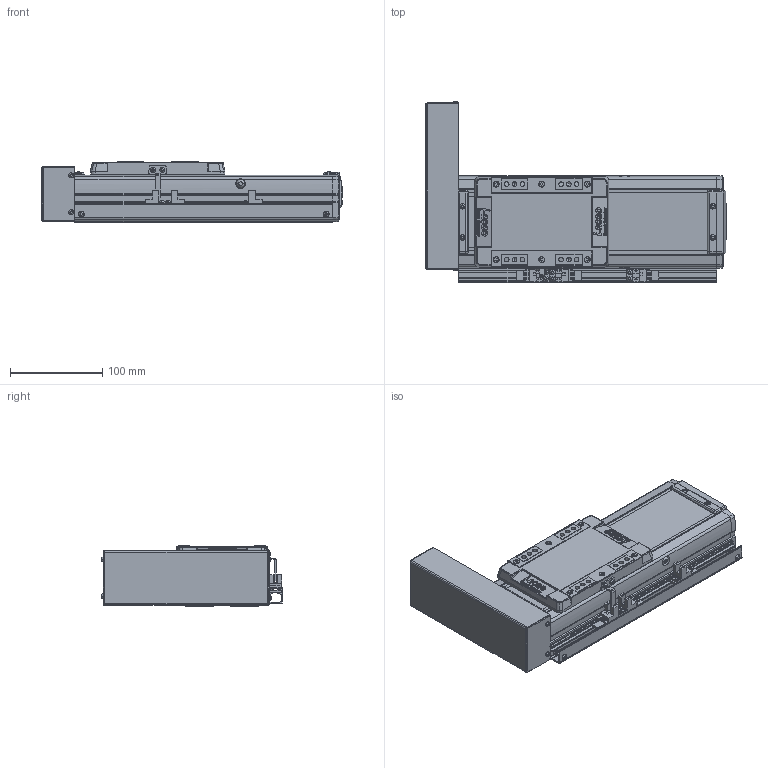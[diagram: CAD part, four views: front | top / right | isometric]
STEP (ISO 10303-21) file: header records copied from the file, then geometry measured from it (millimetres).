
FILE_DESCRIPTION(('STEP AP214'),'1');
FILE_NAME('Z:/Web/3D/SAN100/SAN100 양산용 (STEP)/SAN100ㅁㅁ-100PL+3SR.stp','2013-04-24T06:13:48',(' '),(' '),'Spatial InterOp 3D',' ',' ');
FILE_SCHEMA(('automotive_design'));
Length unit declared in the file: millimetre
Products named in the file (47): SUS COVER; SFX-SAN100; RRCV-SAN100; 스크루 : Round - M4.0 x 10.0; M3.0 x 6.0; 스크루 : Round - M3.0 x 6.0; FRBL-SAN100; SLBL-SAN100; SLCV-SAN100; 스크루 : Countersunk - M3.0 x 6.0; BASE; 스크루 : Round - M5.0 x 6.0; EE-SX674; SBK-SX674-352; SRL-16x17-380L; SGD-SAN100; BTCV-SAN65; BHCS M3 X 6L
Bounding box: 326.5 x 197.06 x 66 mm (x, y, z)
Volume: 1336112.7 mm3; surface area: 343197.5 mm2
Topology: 47 solids, 48 shells, 2271 faces, 5914 edges, 3835 vertices
Faces by surface type: plane 1254, cylinder 749, cone 174, sphere 60, torus 18, bspline 16
Entity records: 89384 total; most frequent: CARTESIAN_POINT 13177, DIRECTION 12425, ORIENTED_EDGE 11680, EDGE_CURVE 5840, AXIS2_PLACEMENT_3D 4352, VERTEX_POINT 3835, LINE 3721, VECTOR 3721
